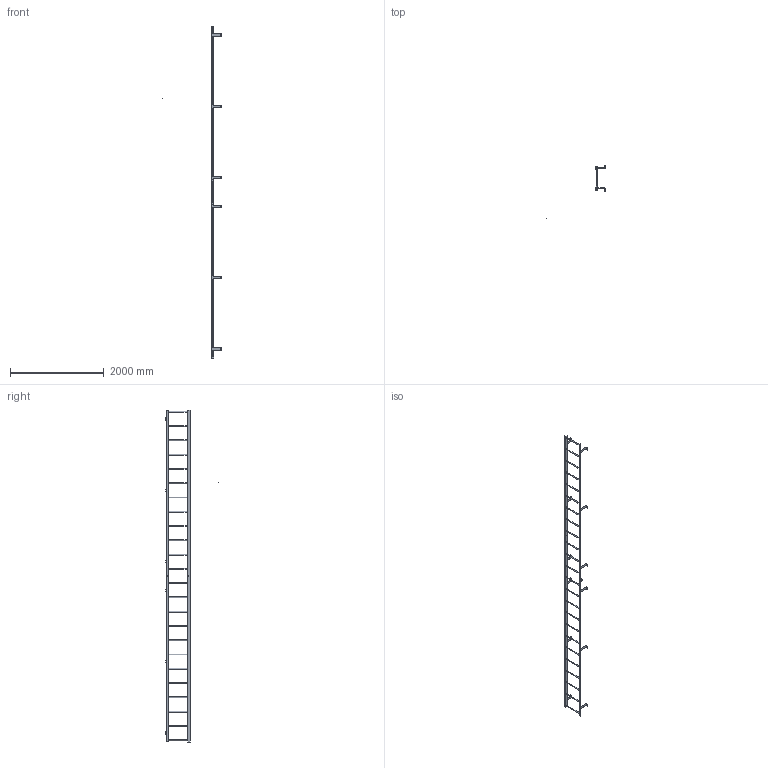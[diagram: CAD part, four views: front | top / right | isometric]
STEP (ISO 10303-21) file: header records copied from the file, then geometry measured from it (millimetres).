
FILE_DESCRIPTION(/* description */ (''),/* implementation_level */ '2;1');
FILE_NAME(/* name */ 'P:\MIKEL & KAREN\D0570338 F24S SIMPLIFIED PART.stp',/* time_stamp */ '2018-07-03T08:28:51-04:00',/* author */ ('stephanie'),/* organization */ (''),/* preprocessor_version */ 'ST-DEVELOPER v16.1',/* originating_system */ 'Autodesk Inventor 2016',/* authorisation */ '');
FILE_SCHEMA (('AUTOMOTIVE_DESIGN { 1 0 10303 214 3 1 1 }'));
Length unit declared in the file: centimetre
Products named in the file (1): D0570338 F24S SIMPLIFIED PART
Bounding box: 1241.12 x 1124.01 x 7086.6 mm (x, y, z)
Volume: 12345137.3 mm3; surface area: 3706519.8 mm2
Topology: 27 solids, 27 shells, 351 faces, 929 edges, 624 vertices
Faces by surface type: plane 204, cylinder 147
Full cylindrical faces by diameter (mm): 0.254 x1, 14.287 x14, 19.05 x24, 22.225 x48
Entity records: 10604 total; most frequent: DIRECTION 1802, CARTESIAN_POINT 1694, ORIENTED_EDGE 1560, EDGE_CURVE 780, AXIS2_PLACEMENT_3D 670, EDGE_LOOP 562, VERTEX_POINT 562, LINE 462
